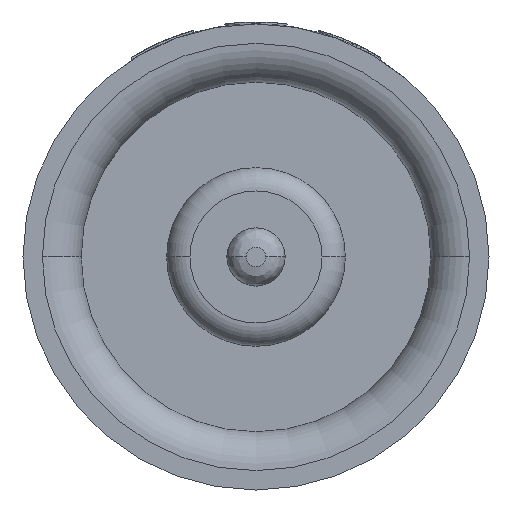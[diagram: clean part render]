
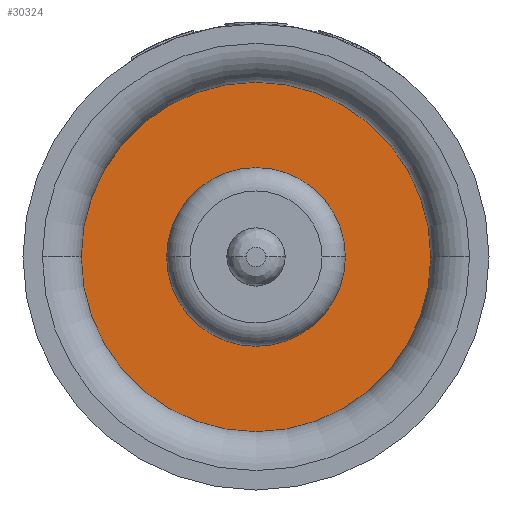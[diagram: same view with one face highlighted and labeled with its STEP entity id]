
A CAD part, left-side view. The second image highlights one B-rep face of the part: STEP entity #30324.
In plain terms, the highlighted planar face has unit normal (-1, 0, 0).
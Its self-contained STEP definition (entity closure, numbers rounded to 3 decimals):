
#15762=CARTESIAN_POINT('',(3.95,0.,0.));
#15763=DIRECTION('',(1.,0.,0.));
#15764=DIRECTION('',(0.,1.,0.));
#15765=AXIS2_PLACEMENT_3D('',#15762,#15763,#15764);
#15770=CARTESIAN_POINT('',(3.95,0.,0.));
#15771=DIRECTION('',(-1.,0.,0.));
#15772=DIRECTION('',(0.,1.,0.));
#15773=AXIS2_PLACEMENT_3D('',#15770,#15771,#15772);
#15786=CARTESIAN_POINT('',(3.95,0.,0.));
#15787=DIRECTION('',(-1.,0.,0.));
#15788=DIRECTION('',(0.,1.,0.));
#15789=AXIS2_PLACEMENT_3D('',#15786,#15787,#15788);
#15919=CARTESIAN_POINT('',(3.95,0.,0.));
#15920=DIRECTION('',(1.,0.,0.));
#15921=DIRECTION('',(0.,1.,0.));
#15922=AXIS2_PLACEMENT_3D('',#15919,#15920,#15921);
#15986=CARTESIAN_POINT('',(3.95,1.15,0.));
#15987=VERTEX_POINT('',#15986);
#15988=CARTESIAN_POINT('',(3.95,-1.15,0.));
#15989=VERTEX_POINT('',#15988);
#15998=CARTESIAN_POINT('',(3.95,2.325,0.));
#15999=VERTEX_POINT('',#15998);
#16000=CARTESIAN_POINT('',(3.95,-2.325,0.));
#16001=VERTEX_POINT('',#16000);
#30309=CARTESIAN_POINT('',(3.95,0.,0.));
#30310=DIRECTION('',(-1.,0.,0.));
#30311=DIRECTION('',(0.,1.,0.));
#30312=AXIS2_PLACEMENT_3D('',#30309,#30310,#30311);
#30313=PLANE('',#30312);
#30314=ORIENTED_EDGE('',*,*,#30265,.T.);
#30315=ORIENTED_EDGE('',*,*,#30250,.F.);
#30316=EDGE_LOOP('',(#30314,#30315));
#30317=FACE_OUTER_BOUND('',#30316,.F.);
#30319=ORIENTED_EDGE('',*,*,#30318,.T.);
#30321=ORIENTED_EDGE('',*,*,#30320,.F.);
#30322=EDGE_LOOP('',(#30319,#30321));
#30323=FACE_BOUND('',#30322,.F.);
#30324=ADVANCED_FACE('',(#30317,#30323),#30313,.T.);
#15766=CIRCLE('',#15765,2.325);
#15774=CIRCLE('',#15773,2.325);
#15790=CIRCLE('',#15789,1.15);
#15923=CIRCLE('',#15922,1.15);
#30250=EDGE_CURVE('',#15999,#16001,#15774,.T.);
#30265=EDGE_CURVE('',#15999,#16001,#15766,.T.);
#30318=EDGE_CURVE('',#15987,#15989,#15790,.T.);
#30320=EDGE_CURVE('',#15987,#15989,#15923,.T.);
